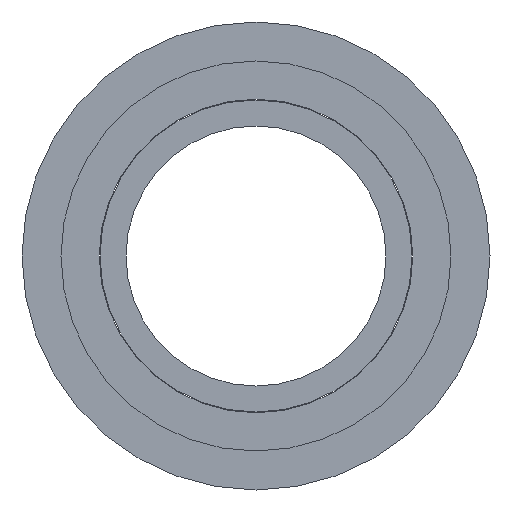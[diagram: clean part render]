
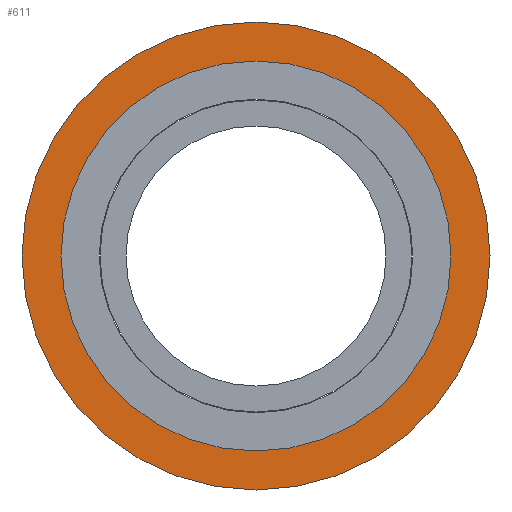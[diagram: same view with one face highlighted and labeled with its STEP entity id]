
A CAD part, left-side view. The second image highlights one B-rep face of the part: STEP entity #611.
In plain terms, the highlighted planar face has unit normal (-1, 0, 0).
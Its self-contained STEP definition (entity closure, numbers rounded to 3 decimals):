
#450 = VERTEX_POINT('',#451);
#451 = CARTESIAN_POINT('',(-17.5,90.,0.));
#460 = CYLINDRICAL_SURFACE('',#461,90.);
#461 = AXIS2_PLACEMENT_3D('',#462,#463,#464);
#462 = CARTESIAN_POINT('',(-17.5,0.,0.));
#463 = DIRECTION('',(-1.,-0.,-0.));
#464 = DIRECTION('',(0.,1.,0.));
#507 = EDGE_CURVE('',#450,#450,#508,.T.);
#508 = SURFACE_CURVE('',#509,(#514,#521),.PCURVE_S1.);
#509 = CIRCLE('',#510,90.);
#510 = AXIS2_PLACEMENT_3D('',#511,#512,#513);
#511 = CARTESIAN_POINT('',(-17.5,0.,0.));
#512 = DIRECTION('',(1.,0.,0.));
#513 = DIRECTION('',(0.,1.,0.));
#514 = PCURVE('',#460,#515);
#515 = DEFINITIONAL_REPRESENTATION('',(#516),#520);
#516 = LINE('',#517,#518);
#517 = CARTESIAN_POINT('',(-0.,0.));
#518 = VECTOR('',#519,1.);
#519 = DIRECTION('',(-1.,0.));
#520 = ( GEOMETRIC_REPRESENTATION_CONTEXT(2) 
PARAMETRIC_REPRESENTATION_CONTEXT() REPRESENTATION_CONTEXT('2D SPACE',''
  ) );
#521 = PCURVE('',#522,#527);
#522 = PLANE('',#523);
#523 = AXIS2_PLACEMENT_3D('',#524,#525,#526);
#524 = CARTESIAN_POINT('',(-17.5,0.,0.)
  );
#525 = DIRECTION('',(1.,0.,0.));
#526 = DIRECTION('',(-0.,0.,1.));
#527 = DEFINITIONAL_REPRESENTATION('',(#528),#532);
#528 = CIRCLE('',#529,90.);
#529 = AXIS2_PLACEMENT_2D('',#530,#531);
#530 = CARTESIAN_POINT('',(0.,0.));
#531 = DIRECTION('',(0.,-1.));
#532 = ( GEOMETRIC_REPRESENTATION_CONTEXT(2) 
PARAMETRIC_REPRESENTATION_CONTEXT() REPRESENTATION_CONTEXT('2D SPACE',''
  ) );
#538 = VERTEX_POINT('',#539);
#539 = CARTESIAN_POINT('',(-17.5,75.,0.));
#548 = CYLINDRICAL_SURFACE('',#549,75.);
#549 = AXIS2_PLACEMENT_3D('',#550,#551,#552);
#550 = CARTESIAN_POINT('',(-17.5,0.,0.)
  );
#551 = DIRECTION('',(-1.,-0.,-0.));
#552 = DIRECTION('',(0.,1.,0.));
#590 = EDGE_CURVE('',#538,#538,#591,.T.);
#591 = SURFACE_CURVE('',#592,(#597,#604),.PCURVE_S1.);
#592 = CIRCLE('',#593,75.);
#593 = AXIS2_PLACEMENT_3D('',#594,#595,#596);
#594 = CARTESIAN_POINT('',(-17.5,0.,0.)
  );
#595 = DIRECTION('',(1.,0.,0.));
#596 = DIRECTION('',(0.,1.,0.));
#597 = PCURVE('',#548,#598);
#598 = DEFINITIONAL_REPRESENTATION('',(#599),#603);
#599 = LINE('',#600,#601);
#600 = CARTESIAN_POINT('',(-0.,0.));
#601 = VECTOR('',#602,1.);
#602 = DIRECTION('',(-1.,0.));
#603 = ( GEOMETRIC_REPRESENTATION_CONTEXT(2) 
PARAMETRIC_REPRESENTATION_CONTEXT() REPRESENTATION_CONTEXT('2D SPACE',''
  ) );
#604 = PCURVE('',#522,#605);
#605 = DEFINITIONAL_REPRESENTATION('',(#606),#610);
#606 = CIRCLE('',#607,75.);
#607 = AXIS2_PLACEMENT_2D('',#608,#609);
#608 = CARTESIAN_POINT('',(0.,0.));
#609 = DIRECTION('',(0.,-1.));
#610 = ( GEOMETRIC_REPRESENTATION_CONTEXT(2) 
PARAMETRIC_REPRESENTATION_CONTEXT() REPRESENTATION_CONTEXT('2D SPACE',''
  ) );
#611 = ADVANCED_FACE('',(#612,#615),#522,.F.);
#612 = FACE_BOUND('',#613,.F.);
#613 = EDGE_LOOP('',(#614));
#614 = ORIENTED_EDGE('',*,*,#507,.T.);
#615 = FACE_BOUND('',#616,.F.);
#616 = EDGE_LOOP('',(#617));
#617 = ORIENTED_EDGE('',*,*,#590,.F.);
